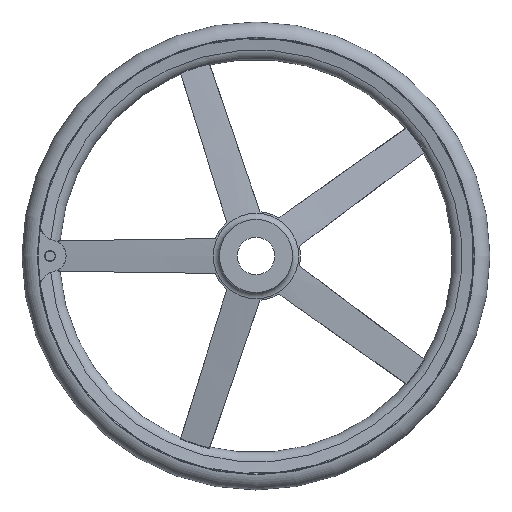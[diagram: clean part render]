
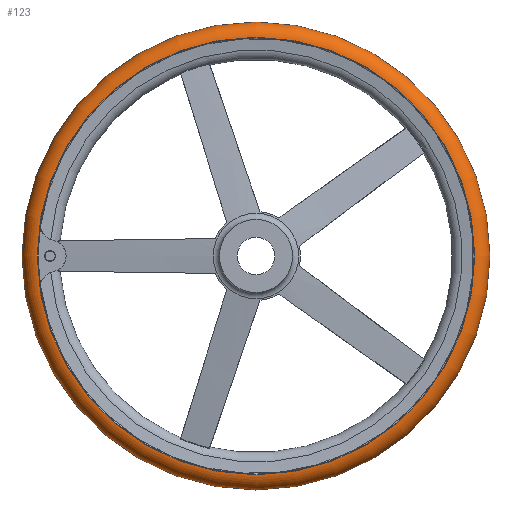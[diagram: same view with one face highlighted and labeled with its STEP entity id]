
A CAD part, left-side view. The second image highlights one B-rep face of the part: STEP entity #123.
In plain terms, the highlighted toroidal (fillet/blend) face has major radius 232.985 mm and minor radius 17.015 mm.
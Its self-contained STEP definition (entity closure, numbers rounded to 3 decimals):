
#123 = ADVANCED_FACE( '', ( #260, #261, #262 ), #263, .T. );
#260 = FACE_BOUND( '', #451, .T. );
#261 = FACE_OUTER_BOUND( '', #452, .T. );
#262 = FACE_OUTER_BOUND( '', #453, .T. );
#263 = TOROIDAL_SURFACE( '', #454, 232.985, 17.015 );
#451 = VERTEX_LOOP( '', #886 );
#452 = EDGE_LOOP( '', ( #887 ) );
#453 = EDGE_LOOP( '', ( #888 ) );
#454 = AXIS2_PLACEMENT_3D( '', #889, #890, #891 );
#886 = VERTEX_POINT( '', #1137 );
#887 = ORIENTED_EDGE( '', *, *, #1138, .T. );
#888 = ORIENTED_EDGE( '', *, *, #1043, .F. );
#889 = CARTESIAN_POINT( '', ( 55., 0., 0. ) );
#890 = DIRECTION( '', ( 1., 0., 0. ) );
#891 = DIRECTION( '', ( 0., 1., 0. ) );
#1043 = EDGE_CURVE( '', #1251, #1251, #1252, .T. );
#1137 = CARTESIAN_POINT( '', ( 55., 250., 0. ) );
#1138 = EDGE_CURVE( '', #1401, #1401, #1402, .T. );
#1251 = VERTEX_POINT( '', #1809 );
#1252 = CIRCLE( '', #1810, 233.708 );
#1401 = VERTEX_POINT( '', #2339 );
#1402 = CIRCLE( '', #2340, 233.708 );
#1809 = CARTESIAN_POINT( '', ( 72., 233.708, 0. ) );
#1810 = AXIS2_PLACEMENT_3D( '', #2435, #2436, #2437 );
#2339 = CARTESIAN_POINT( '', ( 38., 233.708, 0. ) );
#2340 = AXIS2_PLACEMENT_3D( '', #2555, #2556, #2557 );
#2435 = CARTESIAN_POINT( '', ( 72., 0., 0. ) );
#2436 = DIRECTION( '', ( 1., 0., 0. ) );
#2437 = DIRECTION( '', ( 0., 1., 0. ) );
#2555 = CARTESIAN_POINT( '', ( 38., 0., 0. ) );
#2556 = DIRECTION( '', ( 1., 0., 0. ) );
#2557 = DIRECTION( '', ( 0., 1., 0. ) );
